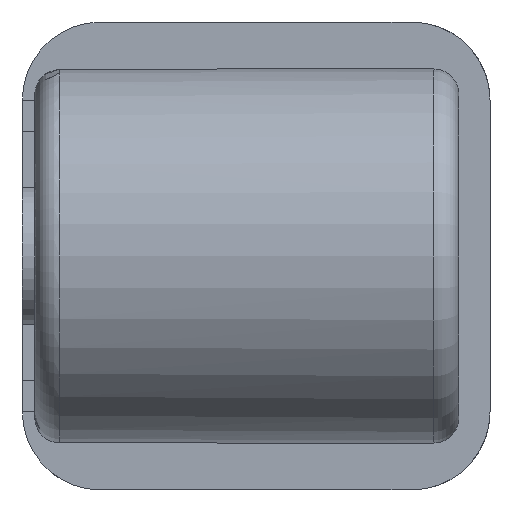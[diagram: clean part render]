
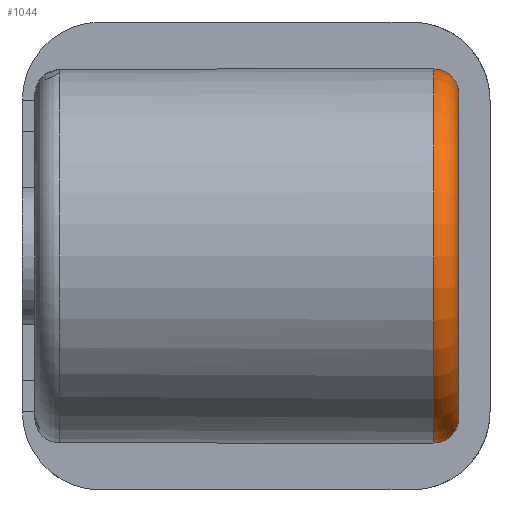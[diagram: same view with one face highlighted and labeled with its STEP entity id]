
A CAD part, left-side view. The second image highlights one B-rep face of the part: STEP entity #1044.
In plain terms, the highlighted toroidal (fillet/blend) face has major radius 5.2 mm and minor radius 0.8 mm.
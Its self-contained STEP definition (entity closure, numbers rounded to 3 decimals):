
#49 = CYLINDRICAL_SURFACE('',#50,6.);
#50 = AXIS2_PLACEMENT_3D('',#51,#52,#53);
#51 = CARTESIAN_POINT('',(0.,6.6,0.));
#52 = DIRECTION('',(0.,-1.,0.));
#53 = DIRECTION('',(1.,0.,0.));
#108 = VERTEX_POINT('',#109);
#109 = CARTESIAN_POINT('',(6.,-6.2,0.));
#130 = EDGE_CURVE('',#108,#108,#131,.T.);
#131 = SURFACE_CURVE('',#132,(#137,#144),.PCURVE_S1.);
#132 = CIRCLE('',#133,6.);
#133 = AXIS2_PLACEMENT_3D('',#134,#135,#136);
#134 = CARTESIAN_POINT('',(0.,-6.2,0.));
#135 = DIRECTION('',(0.,-1.,0.));
#136 = DIRECTION('',(1.,0.,0.));
#137 = PCURVE('',#49,#138);
#138 = DEFINITIONAL_REPRESENTATION('',(#139),#143);
#139 = LINE('',#140,#141);
#140 = CARTESIAN_POINT('',(0.,12.8));
#141 = VECTOR('',#142,1.);
#142 = DIRECTION('',(1.,0.));
#143 = ( GEOMETRIC_REPRESENTATION_CONTEXT(2) 
PARAMETRIC_REPRESENTATION_CONTEXT() REPRESENTATION_CONTEXT('2D SPACE',''
  ) );
#144 = PCURVE('',#145,#150);
#145 = TOROIDAL_SURFACE('',#146,5.2,0.8);
#146 = AXIS2_PLACEMENT_3D('',#147,#148,#149);
#147 = CARTESIAN_POINT('',(0.,-6.2,0.));
#148 = DIRECTION('',(0.,-1.,0.));
#149 = DIRECTION('',(1.,0.,0.));
#150 = DEFINITIONAL_REPRESENTATION('',(#151),#155);
#151 = LINE('',#152,#153);
#152 = CARTESIAN_POINT('',(0.,0.));
#153 = VECTOR('',#154,1.);
#154 = DIRECTION('',(1.,0.));
#155 = ( GEOMETRIC_REPRESENTATION_CONTEXT(2) 
PARAMETRIC_REPRESENTATION_CONTEXT() REPRESENTATION_CONTEXT('2D SPACE',''
  ) );
#1044 = ADVANCED_FACE('',(#1045),#145,.T.);
#1045 = FACE_BOUND('',#1046,.T.);
#1046 = EDGE_LOOP('',(#1047,#1069,#1070,#1071));
#1047 = ORIENTED_EDGE('',*,*,#1048,.F.);
#1048 = EDGE_CURVE('',#108,#1049,#1051,.T.);
#1049 = VERTEX_POINT('',#1050);
#1050 = CARTESIAN_POINT('',(5.2,-7.,0.));
#1051 = SEAM_CURVE('',#1052,(#1057,#1063),.PCURVE_S1.);
#1052 = CIRCLE('',#1053,0.8);
#1053 = AXIS2_PLACEMENT_3D('',#1054,#1055,#1056);
#1054 = CARTESIAN_POINT('',(5.2,-6.2,0.));
#1055 = DIRECTION('',(0.,0.,-1.));
#1056 = DIRECTION('',(1.,0.,0.));
#1057 = PCURVE('',#145,#1058);
#1058 = DEFINITIONAL_REPRESENTATION('',(#1059),#1062);
#1059 = B_SPLINE_CURVE_WITH_KNOTS('',1,(#1060,#1061),.UNSPECIFIED.,.F.,
  .F.,(2,2),(0.,1.571),.PIECEWISE_BEZIER_KNOTS.);
#1060 = CARTESIAN_POINT('',(0.,0.));
#1061 = CARTESIAN_POINT('',(0.,1.571));
#1062 = ( GEOMETRIC_REPRESENTATION_CONTEXT(2) 
PARAMETRIC_REPRESENTATION_CONTEXT() REPRESENTATION_CONTEXT('2D SPACE',''
  ) );
#1063 = PCURVE('',#145,#1064);
#1064 = DEFINITIONAL_REPRESENTATION('',(#1065),#1068);
#1065 = B_SPLINE_CURVE_WITH_KNOTS('',1,(#1066,#1067),.UNSPECIFIED.,.F.,
  .F.,(2,2),(0.,1.571),.PIECEWISE_BEZIER_KNOTS.);
#1066 = CARTESIAN_POINT('',(6.283,0.));
#1067 = CARTESIAN_POINT('',(6.283,1.571));
#1068 = ( GEOMETRIC_REPRESENTATION_CONTEXT(2) 
PARAMETRIC_REPRESENTATION_CONTEXT() REPRESENTATION_CONTEXT('2D SPACE',''
  ) );
#1069 = ORIENTED_EDGE('',*,*,#130,.T.);
#1070 = ORIENTED_EDGE('',*,*,#1048,.T.);
#1071 = ORIENTED_EDGE('',*,*,#1072,.F.);
#1072 = EDGE_CURVE('',#1049,#1049,#1073,.T.);
#1073 = SURFACE_CURVE('',#1074,(#1079,#1086),.PCURVE_S1.);
#1074 = CIRCLE('',#1075,5.2);
#1075 = AXIS2_PLACEMENT_3D('',#1076,#1077,#1078);
#1076 = CARTESIAN_POINT('',(0.,-7.,0.));
#1077 = DIRECTION('',(0.,-1.,0.));
#1078 = DIRECTION('',(1.,0.,0.));
#1079 = PCURVE('',#145,#1080);
#1080 = DEFINITIONAL_REPRESENTATION('',(#1081),#1085);
#1081 = LINE('',#1082,#1083);
#1082 = CARTESIAN_POINT('',(0.,1.571));
#1083 = VECTOR('',#1084,1.);
#1084 = DIRECTION('',(1.,0.));
#1085 = ( GEOMETRIC_REPRESENTATION_CONTEXT(2) 
PARAMETRIC_REPRESENTATION_CONTEXT() REPRESENTATION_CONTEXT('2D SPACE',''
  ) );
#1086 = PCURVE('',#1087,#1092);
#1087 = PLANE('',#1088);
#1088 = AXIS2_PLACEMENT_3D('',#1089,#1090,#1091);
#1089 = CARTESIAN_POINT('',(0.,-7.,0.));
#1090 = DIRECTION('',(0.,-1.,0.));
#1091 = DIRECTION('',(1.,0.,0.));
#1092 = DEFINITIONAL_REPRESENTATION('',(#1093),#1097);
#1093 = CIRCLE('',#1094,5.2);
#1094 = AXIS2_PLACEMENT_2D('',#1095,#1096);
#1095 = CARTESIAN_POINT('',(0.,0.));
#1096 = DIRECTION('',(1.,0.));
#1097 = ( GEOMETRIC_REPRESENTATION_CONTEXT(2) 
PARAMETRIC_REPRESENTATION_CONTEXT() REPRESENTATION_CONTEXT('2D SPACE',''
  ) );
